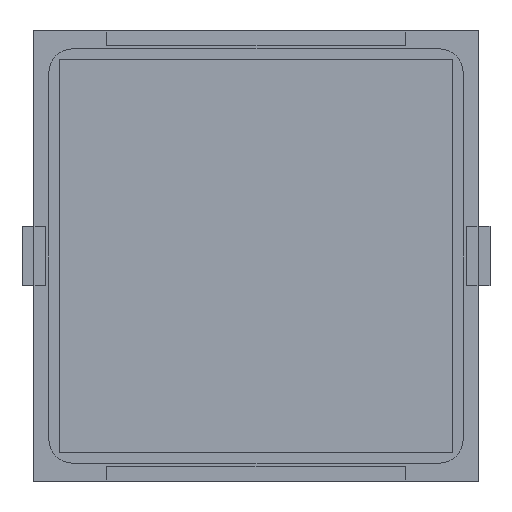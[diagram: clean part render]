
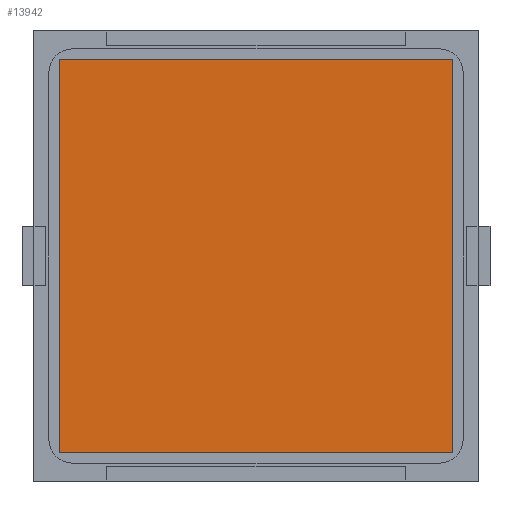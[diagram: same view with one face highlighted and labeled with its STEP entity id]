
A CAD part, front view. The second image highlights one B-rep face of the part: STEP entity #13942.
In plain terms, the highlighted planar face has unit normal (0, -1, 0).
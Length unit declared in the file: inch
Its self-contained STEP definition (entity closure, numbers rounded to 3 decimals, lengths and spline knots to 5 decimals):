
#479 = CARTESIAN_POINT ( 'NONE',  ( 0.64961, -0.005, 0.64961 ) ) ;
#1106 = CARTESIAN_POINT ( 'NONE',  ( -0.64961, -0.005, -0.64961 ) ) ;
#1906 = VECTOR ( 'NONE', #5865, 39.37008 ) ;
#2063 = CARTESIAN_POINT ( 'NONE',  ( 0.64961, -0.005, -0.64961 ) ) ;
#2588 = VECTOR ( 'NONE', #5572, 39.37008 ) ;
#3062 = DIRECTION ( 'NONE',  ( -1., 0., 0. ) ) ;
#3274 = CARTESIAN_POINT ( 'NONE',  ( -0.64961, -0.005, -0.64961 ) ) ;
#3746 = DIRECTION ( 'NONE',  ( 0., 0., -1. ) ) ;
#3899 = EDGE_CURVE ( 'NONE', #4071, #14954, #12312, .T. ) ;
#4071 = VERTEX_POINT ( 'NONE', #3274 ) ;
#4337 = CARTESIAN_POINT ( 'NONE',  ( -0.64961, -0.005, 0.64961 ) ) ;
#4999 = LINE ( 'NONE', #1106, #9896 ) ;
#5572 = DIRECTION ( 'NONE',  ( 0., 0., 1. ) ) ;
#5865 = DIRECTION ( 'NONE',  ( 1., 0., 0. ) ) ;
#5904 = VECTOR ( 'NONE', #3062, 39.37008 ) ;
#6659 = ORIENTED_EDGE ( 'NONE', *, *, #10585, .T. ) ;
#6995 = CARTESIAN_POINT ( 'NONE',  ( 0.64961, -0.005, -0.64961 ) ) ;
#7473 = FACE_OUTER_BOUND ( 'NONE', #15552, .T. ) ;
#7621 = CARTESIAN_POINT ( 'NONE',  ( 0.64961, -0.005, -0.64961 ) ) ;
#8401 = VERTEX_POINT ( 'NONE', #9125 ) ;
#9122 = ORIENTED_EDGE ( 'NONE', *, *, #15251, .T. ) ;
#9125 = CARTESIAN_POINT ( 'NONE',  ( 0.64961, -0.005, 0.64961 ) ) ;
#9659 = LINE ( 'NONE', #6995, #2588 ) ;
#9724 = LINE ( 'NONE', #14814, #5904 ) ;
#9825 = AXIS2_PLACEMENT_3D ( 'NONE', #479, #10943, #11952 ) ;
#9896 = VECTOR ( 'NONE', #3746, 39.37008 ) ;
#10585 = EDGE_CURVE ( 'NONE', #14229, #4071, #4999, .T. ) ;
#10943 = DIRECTION ( 'NONE',  ( 0., -1., 0. ) ) ;
#11040 = EDGE_CURVE ( 'NONE', #8401, #14229, #9724, .T. ) ;
#11629 = PLANE ( 'NONE',  #9825 ) ;
#11952 = DIRECTION ( 'NONE',  ( 0., 0., 1. ) ) ;
#12312 = LINE ( 'NONE', #2063, #1906 ) ;
#13942 = ADVANCED_FACE ( 'NONE', ( #7473 ), #11629, .T. ) ;
#14229 = VERTEX_POINT ( 'NONE', #4337 ) ;
#14814 = CARTESIAN_POINT ( 'NONE',  ( 0.64961, -0.005, 0.64961 ) ) ;
#14954 = VERTEX_POINT ( 'NONE', #7621 ) ;
#15251 = EDGE_CURVE ( 'NONE', #14954, #8401, #9659, .T. ) ;
#15552 = EDGE_LOOP ( 'NONE', ( #9122, #15620, #6659, #15740 ) ) ;
#15620 = ORIENTED_EDGE ( 'NONE', *, *, #11040, .T. ) ;
#15740 = ORIENTED_EDGE ( 'NONE', *, *, #3899, .T. ) ;
